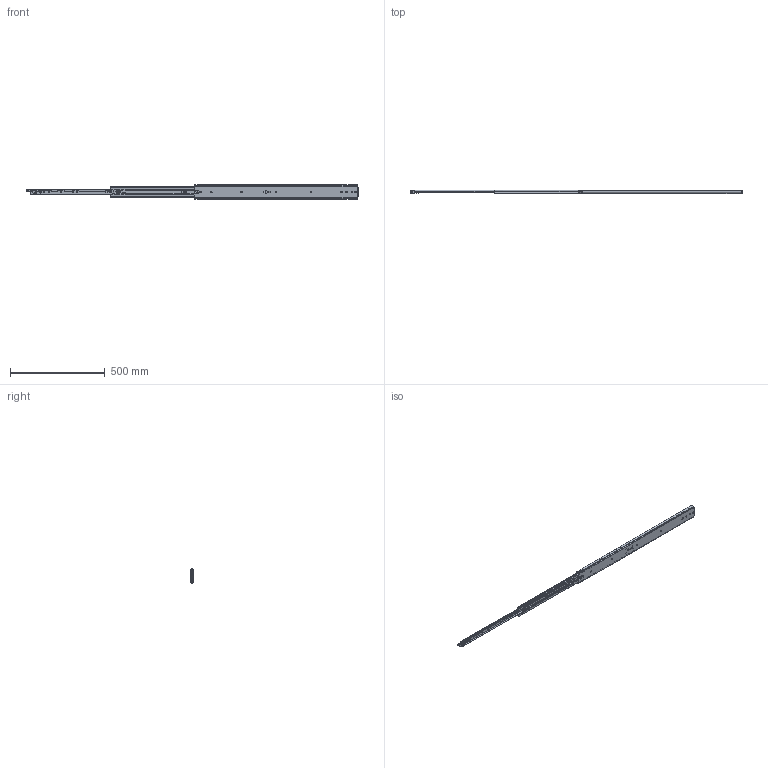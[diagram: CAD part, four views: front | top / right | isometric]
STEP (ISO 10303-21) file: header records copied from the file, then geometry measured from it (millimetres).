
FILE_DESCRIPTION((''),'2;1');
FILE_NAME('DG-76-3S-34YOU_ASM','2023-05-10T',('jishu015'),(''),'PRO/ENGINEER BY PARAMETRIC TECHNOLOGY CORPORATION, 2010280','PRO/ENGINEER BY PARAMETRIC TECHNOLOGY CORPORATION, 2010280','');
FILE_SCHEMA(('CONFIG_CONTROL_DESIGN'));
Products named in the file (29): KP-76-04WAIKE-1816________; 1076-WAIKEZIDANJIAO16________; WAIK16_________ASM; 1076XIAOZHUTIAO-22516________; 16________; 1076XIAOZHUTIAO-17516_________ASM; KP-76-04ZHONGGUI1816________; 76CHANGGUIZHONGGUIJIAO1622; 3X6WODIN16________; ZHONGGUIBAIKOU16________; PJ-76-30_______; PJ-76-03_______; 76-XIAOZHUJIA-11_______; GANGZHU-XIAO_______; ZHUJIA-XIAO________ASM; ZHONGGUI6_________ASM; KP-76-04NEIGUI1816________; PJ-76-31_______; DAOGPIAN16________; 1053-3SBANJ01_______; JIAO-11_______; 76XINSUOKOU_______; PJ-338_______; PJ-356_______; PJ-357_______; PJ-336_______; M4X4_______; NEIGUI16_________ASM; DG-76-3S-34YOU_ASM
Assembly tree (73 placements, depth 4):
  DG-76-3S-34YOU_ASM
    WAIK16_________ASM
      KP-76-04WAIKE-1816________
      1076-WAIKEZIDANJIAO16________  x2
    1076XIAOZHUTIAO-17516_________ASM  x2
      1076XIAOZHUTIAO-22516________
      16________
    ZHONGGUI6_________ASM
      KP-76-04ZHONGGUI1816________
      76CHANGGUIZHONGGUIJIAO1622
      3X6WODIN16________
      ZHONGGUIBAIKOU16________
      PJ-76-30_______
      PJ-76-03_______
      ZHUJIA-XIAO________ASM
        76-XIAOZHUJIA-11_______
        GANGZHU-XIAO_______  x30
    NEIGUI16_________ASM
      KP-76-04NEIGUI1816________
      PJ-76-31_______
      DAOGPIAN16________
      1053-3SBANJ01_______
      JIAO-11_______
      76XINSUOKOU_______
      PJ-338_______
      PJ-356_______
      PJ-357_______
      PJ-336_______
      M4X4_______
Bounding box: 1753.12 x 20.6 x 75.3 mm (x, y, z)
Volume: 567980.6 mm3; surface area: 546284.2 mm2
Topology: 84 solids, 84 shells, 2152 faces, 6481 edges, 4108 vertices
Faces by surface type: plane 1107, cylinder 791, sphere 127, bspline 60, cone 28, extrusion 23, torus 16
Entity records: 70205 total; most frequent: CARTESIAN_POINT 18827, ORIENTED_EDGE 11186, DIRECTION 10216, EDGE_CURVE 5593, VERTEX_POINT 3644, AXIS2_PLACEMENT_3D 3514, VECTOR 3188, LINE 3165
